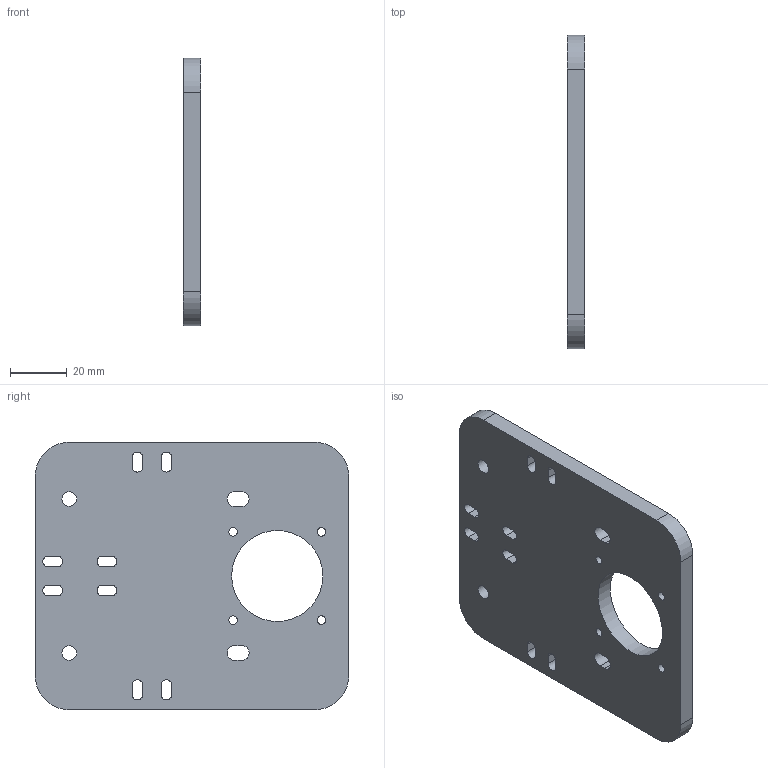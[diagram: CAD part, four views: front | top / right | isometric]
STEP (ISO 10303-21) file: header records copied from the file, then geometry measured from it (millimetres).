
FILE_DESCRIPTION(/* description */ ('STEP AP242 Edition 2','CAx-IF Rec.Pracs.---Representation and Presentation of Product Manufacturing Information (PMI)---4.0---2014-10-13','CAx-IF Rec.Pracs.---3D Tessellated Geometry---0.4---2014-09-14','2;1','CAx-IF Rec.Pracs.---User Defined Attributes---1.5---2016-08-15'),/* implementation_level */ '2;1');
FILE_NAME(/* name */ 'Final Build - X-axis Motor mount',/* time_stamp */ '2026-08-31T23:26:50Z',/* author */ (''),/* organization */ (''),/* preprocessor_version */ 'ST-DEVELOPER v20',/* originating_system */ 'ONSHAPE BY PTC INC, 1.220',/* authorisation */ ' ');
FILE_SCHEMA (('AP242_MANAGED_MODEL_BASED_3D_ENGINEERING_MIM_LF { 1 0 10303 442 3 1 4 }'));
Length unit declared in the file: metre
Products named in the file (1): X-axis Motor mount
Bounding box: 6 x 110.05 x 93.89 mm (x, y, z)
Volume: 54486.3 mm3; surface area: 22639.6 mm2
Topology: 1 solids, 1 shells, 57 faces, 165 edges, 110 vertices
Faces by surface type: cylinder 31, plane 26
Full cylindrical faces by diameter (mm): 2.998 x4, 5.156 x2, 31.983 x1
Entity records: 1956 total; most frequent: DIRECTION 336, CARTESIAN_POINT 326, ORIENTED_EDGE 316, EDGE_CURVE 158, AXIS2_PLACEMENT_3D 120, VERTEX_POINT 110, EDGE_LOOP 98, FACE_BOUND 98
